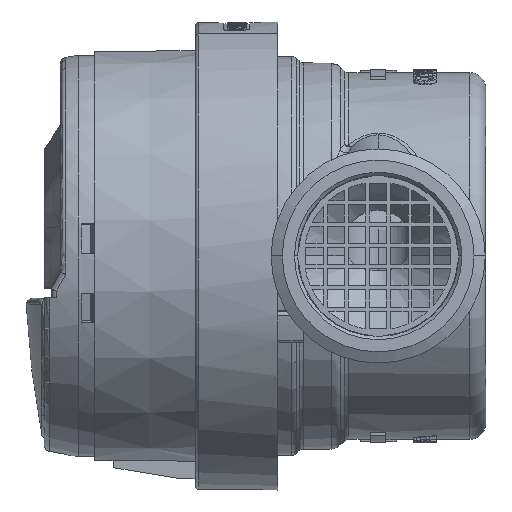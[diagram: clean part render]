
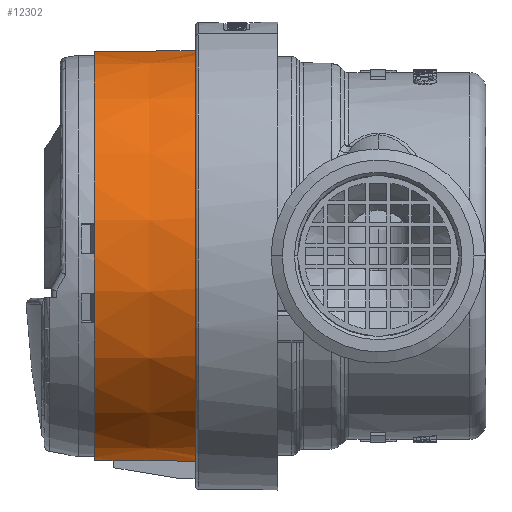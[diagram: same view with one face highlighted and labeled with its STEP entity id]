
A CAD part, left-side view. The second image highlights one B-rep face of the part: STEP entity #12302.
In plain terms, the highlighted conical face has half-angle 0.504 degrees and reference radius 31.9 mm.
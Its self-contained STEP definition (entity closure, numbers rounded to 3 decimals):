
#45 = EDGE_CURVE ( 'NONE', #15281, #13772, #1884, .T. ) ;
#186 = ORIENTED_EDGE ( 'NONE', *, *, #40224, .F. ) ;
#750 = CARTESIAN_POINT ( 'NONE',  ( 0., 57.75, 0. ) ) ;
#1675 = DIRECTION ( 'NONE',  ( 0., -1., -0.009 ) ) ;
#1884 = LINE ( 'NONE', #32872, #28979 ) ;
#1926 = CARTESIAN_POINT ( 'NONE',  ( 0., 60.8, 0. ) ) ;
#2053 = CARTESIAN_POINT ( 'NONE',  ( 0., 43.724, 0. ) ) ;
#3075 = ORIENTED_EDGE ( 'NONE', *, *, #11393, .T. ) ;
#3129 = CARTESIAN_POINT ( 'NONE',  ( 0., 43.724, 31.9 ) ) ;
#4224 = CONICAL_SURFACE ( 'NONE', #40764, 31.9, 0.009 ) ;
#4443 = VERTEX_POINT ( 'NONE', #25455 ) ;
#5210 = CARTESIAN_POINT ( 'NONE',  ( -1., 57.75, -31.761 ) ) ;
#5716 = CARTESIAN_POINT ( 'NONE',  ( -1., 57.75, -31.761 ) ) ;
#6065 = DIRECTION ( 'NONE',  ( 0., -1., 0.009 ) ) ;
#8698 = CIRCLE ( 'NONE', #15848, 31.75 ) ;
#8739 = CARTESIAN_POINT ( 'NONE',  ( 0., 57.75, -31.777 ) ) ;
#9021 = DIRECTION ( 'NONE',  ( 0., 0., 1. ) ) ;
#9233 = CARTESIAN_POINT ( 'NONE',  ( -1., 44.044, -31.882 ) ) ;
#10925 = DIRECTION ( 'NONE',  ( 0., -1., 0. ) ) ;
#11393 = EDGE_CURVE ( 'NONE', #32006, #4443, #36163, .T. ) ;
#11756 = DIRECTION ( 'NONE',  ( 0., 0., -1. ) ) ;
#11975 = CARTESIAN_POINT ( 'NONE',  ( 0., 60.8, -31.75 ) ) ;
#12302 = ADVANCED_FACE ( 'NONE', ( #26755 ), #4224, .T. ) ;
#12395 = CARTESIAN_POINT ( 'NONE',  ( -1., 51.203, -31.819 ) ) ;
#12437 = VECTOR ( 'NONE', #6065, 1000. ) ;
#13304 = CIRCLE ( 'NONE', #22637, 31.777 ) ;
#13772 = VERTEX_POINT ( 'NONE', #8739 ) ;
#14289 = CARTESIAN_POINT ( 'NONE',  ( 0., 43.724, 0. ) ) ;
#14616 = ORIENTED_EDGE ( 'NONE', *, *, #37406, .F. ) ;
#15281 = VERTEX_POINT ( 'NONE', #11975 ) ;
#15848 = AXIS2_PLACEMENT_3D ( 'NONE', #1926, #22621, #19236 ) ;
#19236 = DIRECTION ( 'NONE',  ( 0., 0., 1. ) ) ;
#22579 = CARTESIAN_POINT ( 'NONE',  ( 0., 60.8, 31.75 ) ) ;
#22621 = DIRECTION ( 'NONE',  ( 0., -1., 0. ) ) ;
#22637 = AXIS2_PLACEMENT_3D ( 'NONE', #750, #25471, #11756 ) ;
#22728 = CARTESIAN_POINT ( 'NONE',  ( -1., 48.87, -31.839 ) ) ;
#22949 = CARTESIAN_POINT ( 'NONE',  ( -1., 53.385, -31.799 ) ) ;
#23326 = ORIENTED_EDGE ( 'NONE', *, *, #23978, .T. ) ;
#23978 = EDGE_CURVE ( 'NONE', #31961, #15281, #8698, .T. ) ;
#24637 = DIRECTION ( 'NONE',  ( 0., 0., 1. ) ) ;
#25455 = CARTESIAN_POINT ( 'NONE',  ( -1., 43.724, -31.884 ) ) ;
#25471 = DIRECTION ( 'NONE',  ( 0., -1., 0. ) ) ;
#26527 = CARTESIAN_POINT ( 'NONE',  ( -1., 43.724, -31.884 ) ) ;
#26747 = CARTESIAN_POINT ( 'NONE',  ( -1., 44.204, -31.88 ) ) ;
#26755 = FACE_OUTER_BOUND ( 'NONE', #35324, .T. ) ;
#27176 = LINE ( 'NONE', #3129, #12437 ) ;
#27849 = ORIENTED_EDGE ( 'NONE', *, *, #45, .T. ) ;
#28979 = VECTOR ( 'NONE', #1675, 1000. ) ;
#29677 = CARTESIAN_POINT ( 'NONE',  ( -1., 55.568, -31.78 ) ) ;
#29782 = AXIS2_PLACEMENT_3D ( 'NONE', #14289, #10925, #24637 ) ;
#31961 = VERTEX_POINT ( 'NONE', #22579 ) ;
#32006 = VERTEX_POINT ( 'NONE', #5716 ) ;
#32872 = CARTESIAN_POINT ( 'NONE',  ( 0., 43.724, -31.9 ) ) ;
#34176 = CARTESIAN_POINT ( 'NONE',  ( 0., 43.724, 31.9 ) ) ;
#34890 = EDGE_CURVE ( 'NONE', #31961, #41370, #27176, .T. ) ;
#35324 = EDGE_LOOP ( 'NONE', ( #23326, #27849, #186, #3075, #14616, #37215 ) ) ;
#36163 = B_SPLINE_CURVE_WITH_KNOTS ( 'NONE', 3,
 ( #5210, #29677, #22949, #12395, #22728, #36192, #26747, #9233, #39982, #26527 ),
 .UNSPECIFIED., .F., .F.,
 ( 4, 3, 3, 4 ),
 ( -0.007, 0., 0.007, 0.007 ),
 .UNSPECIFIED. ) ;
#36192 = CARTESIAN_POINT ( 'NONE',  ( -1., 46.537, -31.86 ) ) ;
#36859 = CIRCLE ( 'NONE', #29782, 31.9 ) ;
#37215 = ORIENTED_EDGE ( 'NONE', *, *, #34890, .F. ) ;
#37406 = EDGE_CURVE ( 'NONE', #41370, #4443, #36859, .T. ) ;
#39982 = CARTESIAN_POINT ( 'NONE',  ( -1., 43.884, -31.883 ) ) ;
#40224 = EDGE_CURVE ( 'NONE', #32006, #13772, #13304, .T. ) ;
#40424 = DIRECTION ( 'NONE',  ( 0., -1., 0. ) ) ;
#40764 = AXIS2_PLACEMENT_3D ( 'NONE', #2053, #40424, #9021 ) ;
#41370 = VERTEX_POINT ( 'NONE', #34176 ) ;
